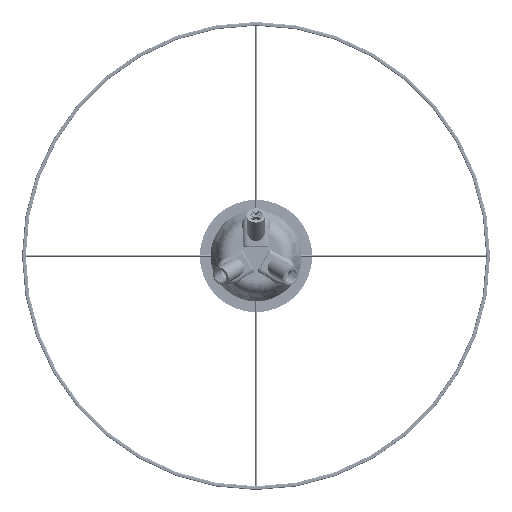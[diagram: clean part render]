
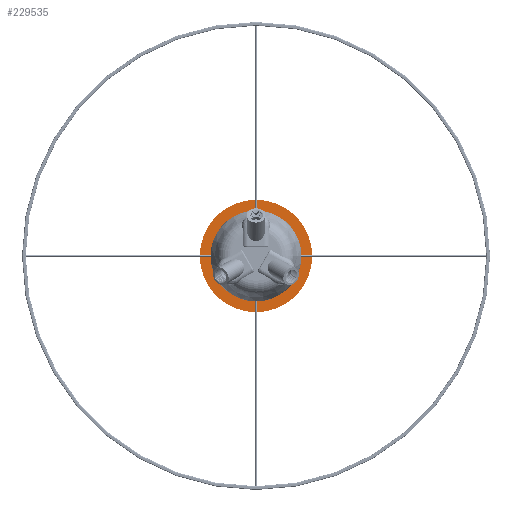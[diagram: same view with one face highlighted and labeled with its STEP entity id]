
A CAD part, front view. The second image highlights one B-rep face of the part: STEP entity #229535.
In plain terms, the highlighted planar face has unit normal (0, -1, 0).
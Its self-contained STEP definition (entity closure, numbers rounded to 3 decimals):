
#12540=PLANE('',#247523);
#19294=FACE_OUTER_BOUND('',#35876,.T.);
#35876=EDGE_LOOP('',(#153788));
#53020=CIRCLE('',#247521,60.);
#99643=VERTEX_POINT('',#363226);
#119632=EDGE_CURVE('',#99643,#99643,#53020,.T.);
#153788=ORIENTED_EDGE('',*,*,#119632,.F.);
#229535=ADVANCED_FACE('',(#19294),#12540,.F.);
#247521=AXIS2_PLACEMENT_3D('',#363228,#277332,#277333);
#247523=AXIS2_PLACEMENT_3D('',#363230,#277336,#277337);
#277332=DIRECTION('center_axis',(0.,1.,0.));
#277333=DIRECTION('ref_axis',(1.,0.,0.));
#277336=DIRECTION('center_axis',(0.,1.,0.));
#277337=DIRECTION('ref_axis',(1.,0.,0.));
#363226=CARTESIAN_POINT('',(-60.,0.,0.));
#363228=CARTESIAN_POINT('Origin',(0.,0.,0.));
#363230=CARTESIAN_POINT('Origin',(0.,0.,0.));
